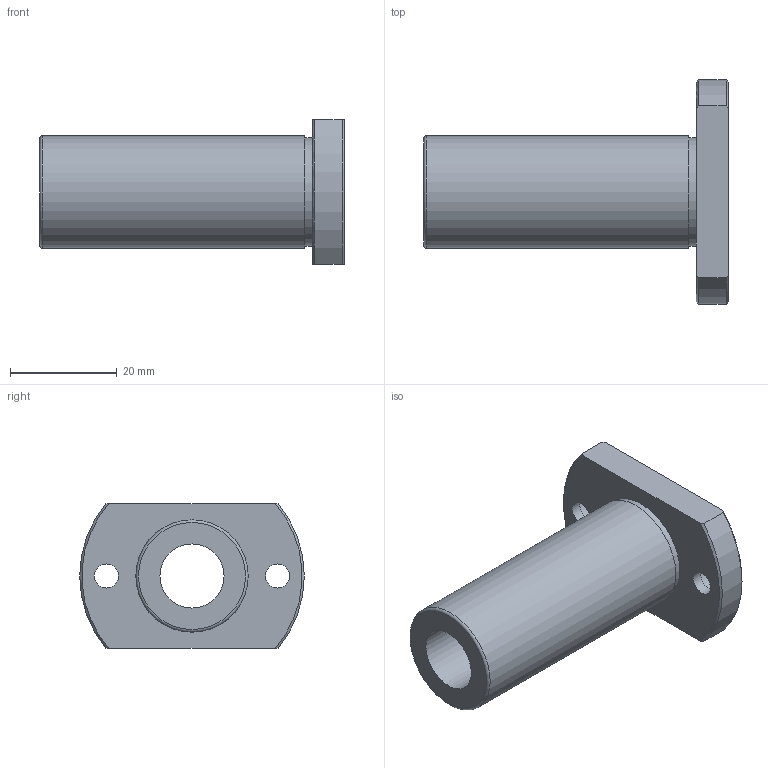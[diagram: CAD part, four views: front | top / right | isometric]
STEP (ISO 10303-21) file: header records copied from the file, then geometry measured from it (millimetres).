
FILE_DESCRIPTION(('STEP AP203'),'1');
FILE_NAME('//192.168.1.1/share/s-4 技術開発/s-4-4_CAD/s-4-4-3_見直し済み/002 修正済み/NFEO-VL(済)/NFEO-VL_TOP/NFEO-12VLUU.step','2022-03-08T01:33:36',(' '),(' '),'Spatial InterOp 3D',' ',' ');
FILE_SCHEMA(('CONFIG_CONTROL_DESIGN'));
Length unit declared in the file: millimetre
Products named in the file (1): 1
Bounding box: 57 x 42 x 27 mm (x, y, z)
Volume: 17051.3 mm3; surface area: 8308.6 mm2
Topology: 1 solids, 1 shells, 22 faces, 49 edges, 33 vertices
Faces by surface type: cylinder 9, plane 8, cone 4, torus 1
Full cylindrical faces by diameter (mm): 4.5 x2, 7.5 x2, 12 x1, 20.3 x1, 21 x1
Entity records: 630 total; most frequent: CARTESIAN_POINT 117, DIRECTION 100, ORIENTED_EDGE 78, AXIS2_PLACEMENT_3D 46, EDGE_LOOP 40, EDGE_CURVE 39, VERTEX_POINT 31, FACE_OUTER_BOUND 30
